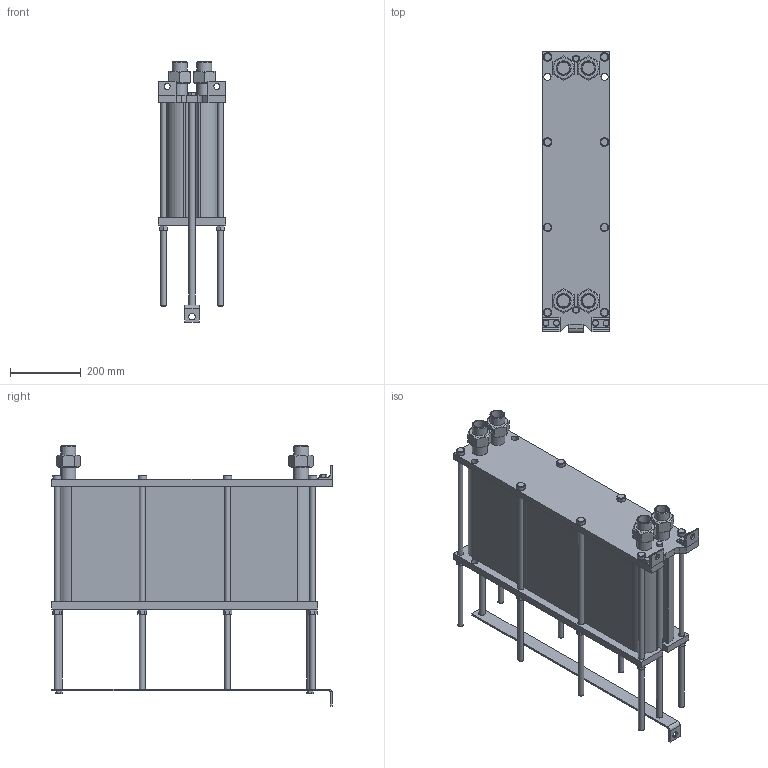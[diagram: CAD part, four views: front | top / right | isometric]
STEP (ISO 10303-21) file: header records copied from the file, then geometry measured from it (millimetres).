
FILE_DESCRIPTION(/* description */ (''),/* implementation_level */ '2;1');
FILE_NAME(/* name */ 'C:\Users\zhuro\Desktop\ENCO\TO\ЭН-008\ЭН-0,5-008-105-1.stp',/* time_stamp */ '2022-06-06T10:55:20+03:00',/* author */ ('zhuro'),/* organization */ (''),/* preprocessor_version */ 'ST-DEVELOPER v18.1',/* originating_system */ 'Autodesk Inventor 2022',/* authorisation */ '');
FILE_SCHEMA (('AUTOMOTIVE_DESIGN { 1 0 10303 214 3 1 1 }'));
Length unit declared in the file: millimetre
Products named in the file (1): ЭН-0,5-008-105-1
Bounding box: 190 x 790 x 733 mm (x, y, z)
Volume: 40172216.7 mm3; surface area: 2063818.9 mm2
Topology: 40 solids, 40 shells, 428 faces, 924 edges, 606 vertices
Faces by surface type: plane 273, cylinder 109, cone 40, torus 6
Full cylindrical faces by diameter (mm): 12 x6, 14 x2, 16 x20, 17 x8, 18 x19, 20 x5, 24 x8, 28 x8, 34.3 x8, 42.3 x8
Entity records: 15843 total; most frequent: CARTESIAN_POINT 5991, DIRECTION 1984, ORIENTED_EDGE 1848, EDGE_CURVE 924, AXIS2_PLACEMENT_3D 715, VERTEX_POINT 606, LINE 554, VECTOR 554
